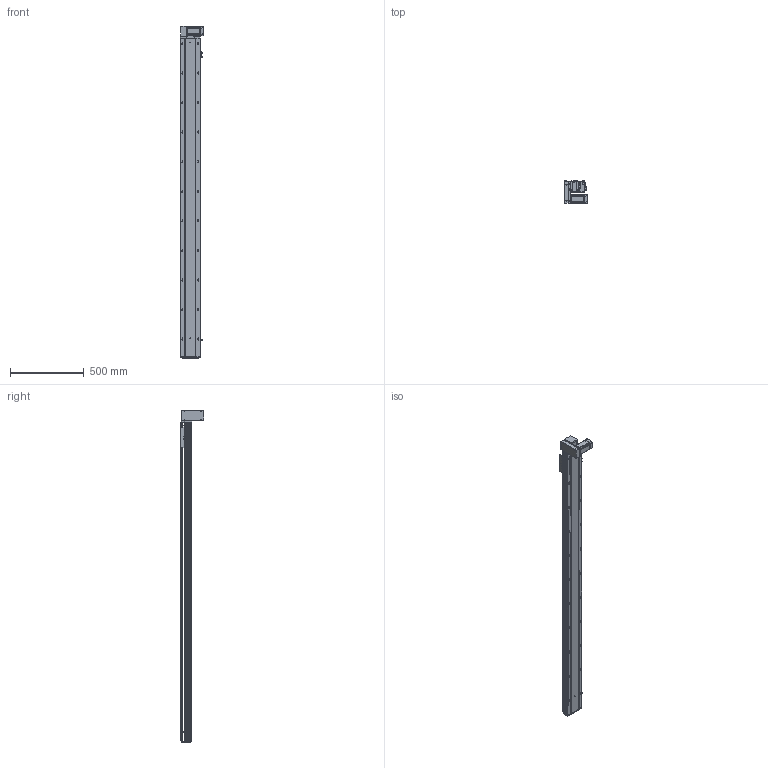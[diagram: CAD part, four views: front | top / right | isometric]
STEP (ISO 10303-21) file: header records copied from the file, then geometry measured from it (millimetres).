
FILE_DESCRIPTION (( 'STEP AP203' ), '1' );
FILE_NAME ('RY140-T-300-DL.SLDASM_1900.step', '2021-03-01T06:07:43', ( '盈信电脑' ), ( '东莞市道滘镇水果街19号' ), 'SwSTEP 2.0', 'SolidWorks 2012', '' );
FILE_SCHEMA (( 'CONFIG_CONTROL_DESIGN' ));
Length unit declared in the file: millimetre
Products named in the file (18): RY140-T-300-DL.SLDASM_1900; RY140-T翋肮謫裔啣; 滅袉蝶18-10; RY140-T萇儂欶; RY120-T蹟翐M4; RY120-T主同步轮轴承压盖; 15; RY140-T萇儂假蚾啣; 侂狟400W侜督萇儂; RY120外置感应片(140共用）; RY140-T翋肮祭謫盓傅釱; RY120-T肮祭湍揤踡輸2; RY120-T肮祭湍揤踡輸1; RY140肮祭謫臏賑輸; RY140綴裔啣; 覜茼ん672; RY140-T-300-DL倰第奻裔啣_1900; RY140-T-300-DL倰第菁釱_1900
Assembly tree (23 placements, depth 3):
  RY140-T-300-DL.SLDASM_1900
    RY140-T-300-DL倰第菁釱_1900
    RY140肮祭謫臏賑輸
    RY140-T-300-DL倰第奻裔啣_1900
    RY140綴裔啣
    覜茼ん672  x3
    RY120外置感应片(140共用）
    RY120-T肮祭湍揤踡輸2
    RY120-T肮祭湍揤踡輸1
    RY140-T翋肮祭謫盓傅釱
    RY140-T萇儂假蚾啣
    侂狟400W侜督萇儂
      15
    RY120-T主同步轮轴承压盖
    RY120-T蹟翐M4  x4
    RY140-T萇儂欶
    滅袉蝶18-10  x2
    RY140-T翋肮謫裔啣
Bounding box: 157 x 158.5 x 2246 mm (x, y, z)
Volume: 6149248.2 mm3; surface area: 2403545.6 mm2
Topology: 22 solids, 22 shells, 2866 faces, 7870 edges, 5010 vertices
Faces by surface type: plane 1385, cylinder 1099, cone 282, bspline 100
Entity records: 90644 total; most frequent: CARTESIAN_POINT 21973, ORIENTED_EDGE 14100, DIRECTION 13496, EDGE_CURVE 7050, VERTEX_POINT 4609, AXIS2_PLACEMENT_3D 4541, VECTOR 4414, LINE 4414
